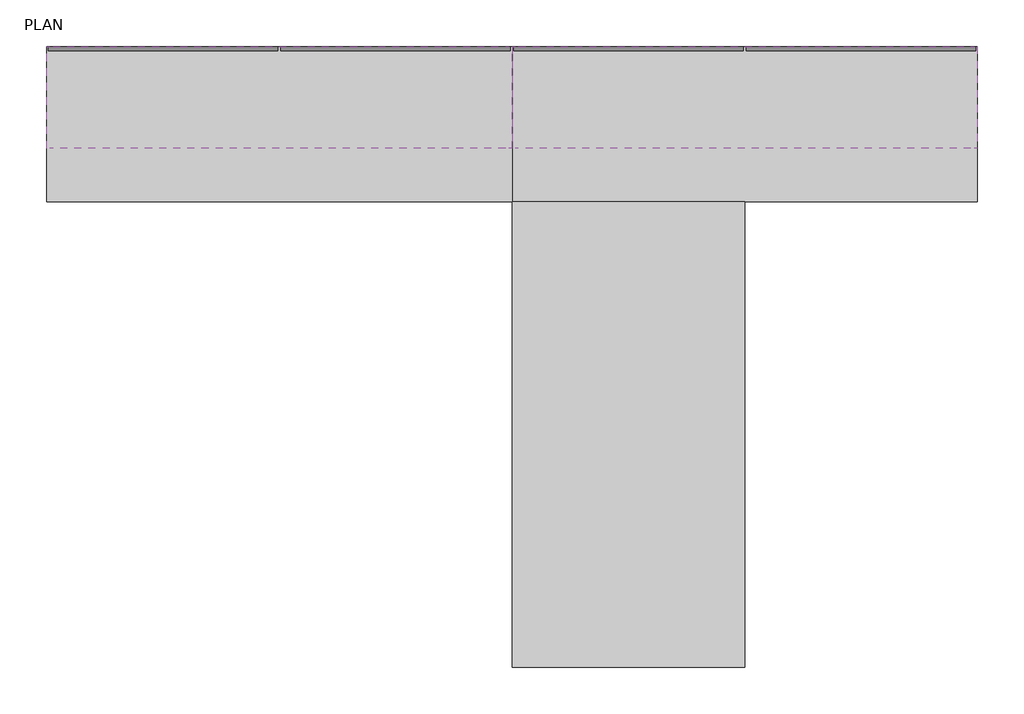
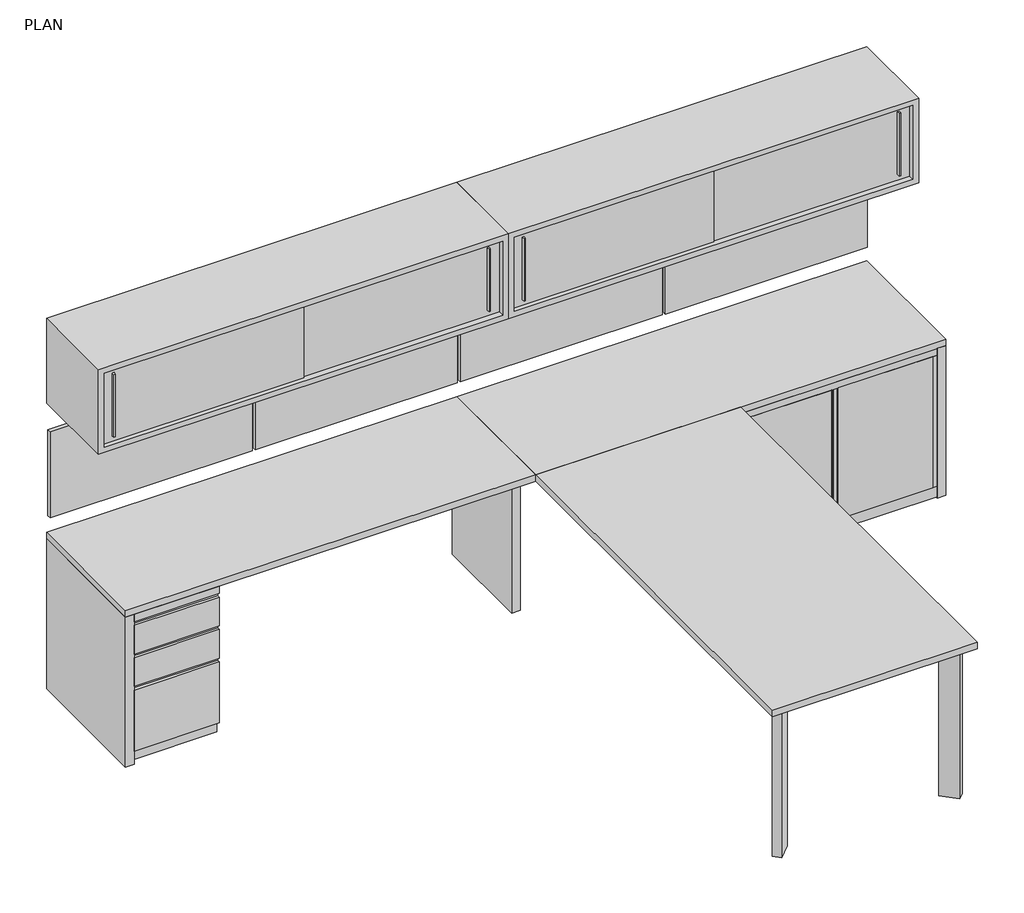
# One storey, incomplete: 12 furniture elements.
"""IFC4 building model written with IfcOpenShell, lengths in millimetres."""

from ifc_helpers import new_model, si_unit, origin, place, context, project, spatial, transform, mapped, element, save
from components import furniture_580ccd05, furniture_2a13f7a9, furniture_6f7b0d15, furniture_dc22e049, furniture_39727c40, furniture_40356f10, haworth_worksurface_compose_rectangular_3a3764a9, furniture_e126ca14

model = new_model("IFC4")

# Units and contexts
model_context = context("Model", 3, world=origin())
ifc_project = project(units=[si_unit("LENGTHUNIT", "METRE", prefix="MILLI")], contexts=[model_context])

# Site, building, storey
site = spatial("IfcSite", under=ifc_project)
building = spatial("IfcBuilding", under=site)
storey = spatial("IfcBuildingStorey", under=building, Name="PLAN", Elevation=30480.0)

# Furniture
placement = place(None, origin())
furniture_shape = furniture_580ccd05(model_context)
element("IfcFurniture", 1, ObjectType="Haworth_Premise-Panel_Accessories-External_Mount_Special : 16\" x 36\" Tackboard", at=placement, inside=storey, context=model_context, shape_type="MappedRepresentation", body=[
    mapped(furniture_shape, transform((23894.5947727, -58924.0806899, 30226.0), x_axis=(1.0, 0.0, 0.0), y_axis=(0.0, 1.0, 0.0), z_axis=(0.0, 0.0, 1.0))),
])
element("IfcFurniture", 2, ObjectType="Haworth_Premise-Panel_Accessories-External_Mount_Special : 16\" x 36\" Tackboard", at=placement, inside=storey, context=model_context, shape_type="MappedRepresentation", body=[
    mapped(furniture_shape, transform((24808.9947727, -58924.0806899, 30226.0), x_axis=(1.0, 0.0, 0.0), y_axis=(0.0, 1.0, 0.0), z_axis=(0.0, 0.0, 1.0))),
])
element("IfcFurniture", 3, ObjectType="Haworth_Premise-Panel_Accessories-External_Mount_Special : 16\" x 36\" Tackboard", at=placement, inside=storey, context=model_context, shape_type="MappedRepresentation", body=[
    mapped(furniture_shape, transform((25723.3947727, -58924.0806899, 30226.0), x_axis=(1.0, 0.0, 0.0), y_axis=(0.0, 1.0, 0.0), z_axis=(0.0, 0.0, 1.0))),
])
element("IfcFurniture", 4, ObjectType="Haworth_Premise-Panel_Accessories-External_Mount_Special : 16\" x 36\" Tackboard", at=placement, inside=storey, context=model_context, shape_type="MappedRepresentation", body=[
    mapped(furniture_shape, transform((26637.7947727, -58924.0806899, 30226.0), x_axis=(1.0, 0.0, 0.0), y_axis=(0.0, 1.0, 0.0), z_axis=(0.0, 0.0, 1.0))),
])
furniture_2_shape = furniture_2a13f7a9(model_context)
element("IfcFurniture", 5, ObjectType="Haworth_XSeries-Storage_Cabinet : 2 High - 36\" Width", at=placement, inside=storey, context=model_context, shape_type="MappedRepresentation", body=[
    mapped(furniture_2_shape, transform((26603.7225628, -59070.4525493, 30487.9375), x_axis=(1.0, 0.0, 0.0), y_axis=(0.0, 1.0, 0.0), z_axis=(0.0, 0.0, 1.0))),
])
furniture_3_shape = furniture_6f7b0d15(model_context)
element("IfcFurniture", 6, ObjectType="Haworth_Worksurface_Compose-Convergent_Rectangular : 24\" x 72\"", at=placement, inside=storey, context=model_context, shape_type="MappedRepresentation", body=[
    mapped(furniture_3_shape, transform((24354.2350628, -59241.9025493, 30480.0), x_axis=(0.0, -1.0000000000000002, 0.0), y_axis=(1.0000000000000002, 0.0, 0.0), z_axis=(0.0, 0.0, 1.0))),
])
furniture_4_shape = furniture_dc22e049(model_context)
element("IfcFurniture", 7, ObjectType="Haworth_Worksurface_Compose-Convergent_Rectangular : 24\" x 72\"", at=placement, inside=storey, context=model_context, shape_type="MappedRepresentation", body=[
    mapped(furniture_4_shape, transform((26183.0350628, -59241.9025493, 30480.0), x_axis=(0.0, -1.0, 0.0), y_axis=(1.0, 0.0, 0.0), z_axis=(0.0, 0.0, 1.0))),
])
furniture_5_shape = furniture_39727c40(model_context)
element("IfcFurniture", 8, ObjectType="Haworth_XSeries-Mobile_Pedestal : Box/Box/File 24\" Depth - J Pull", at=placement, inside=storey, context=model_context, shape_type="MappedRepresentation", body=[
    mapped(furniture_5_shape, transform((23668.4350628, -58937.1025493, 30487.9375), x_axis=(1.0, 0.0, 0.0), y_axis=(0.0, 1.0, 0.0), z_axis=(0.0, 0.0, 1.0))),
])
furniture_6_shape = furniture_40356f10(model_context)
element("IfcFurniture", 9, ObjectType="Haworth_Compose-Storage-Overhead : 72\" x 16\" x 16\" - Sliding Door", at=placement, inside=storey, context=model_context, shape_type="MappedRepresentation", body=[
    mapped(furniture_6_shape, transform((24189.1350628, -58937.1025493, 30556.2), x_axis=(1.0, 0.0, 0.0), y_axis=(0.0, 1.0, 0.0), z_axis=(0.0, 0.0, 1.0))),
])
element("IfcFurniture", 10, ObjectType="Haworth_Compose-Storage-Overhead : 72\" x 16\" x 16\" - Sliding Door", at=placement, inside=storey, context=model_context, shape_type="MappedRepresentation", body=[
    mapped(furniture_6_shape, transform((26017.9350628, -58937.1025493, 30556.2), x_axis=(1.0, 0.0, 0.0), y_axis=(0.0, 1.0, 0.0), z_axis=(0.0, 0.0, 1.0))),
])
haworth_worksurface_compose_rectangular_shape = haworth_worksurface_compose_rectangular_3a3764a9(model_context)
element("IfcFurniture", 11, ObjectType="Haworth_Worksurface_Compose-Rectangular : 36'' x 72''", at=placement, inside=storey, context=model_context, shape_type="MappedRepresentation", body=[
    mapped(haworth_worksurface_compose_rectangular_shape, transform((25725.8350628, -60461.1025493, 30480.0), x_axis=(0.0, -1.0, 0.0), y_axis=(1.0, 0.0, 0.0), z_axis=(0.0, 0.0, 1.0))),
])
furniture_7_shape = furniture_e126ca14(model_context)
element("IfcFurniture", 12, ObjectType="Haworth_Worksurface_Support-Panel : 18\" Depth", at=placement, inside=storey, context=model_context, shape_type="MappedRepresentation", body=[
    mapped(furniture_7_shape, transform((25052.7350628, -59118.3490728, 30480.0), x_axis=(1.0, 0.0, 0.0), y_axis=(0.0, 1.0, 0.0), z_axis=(0.0, 0.0, 1.0))),
])

save(model, "model.ifc")
